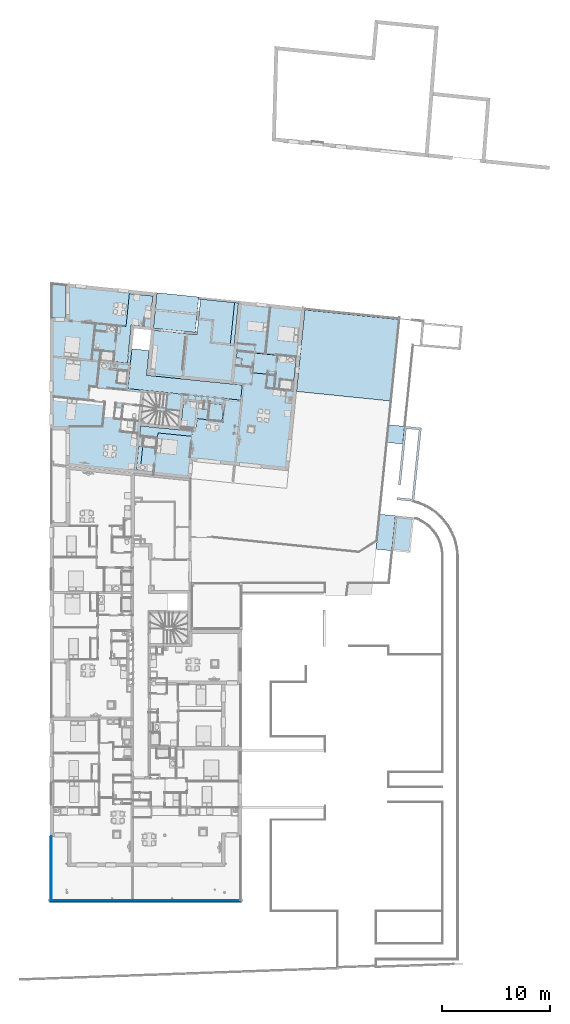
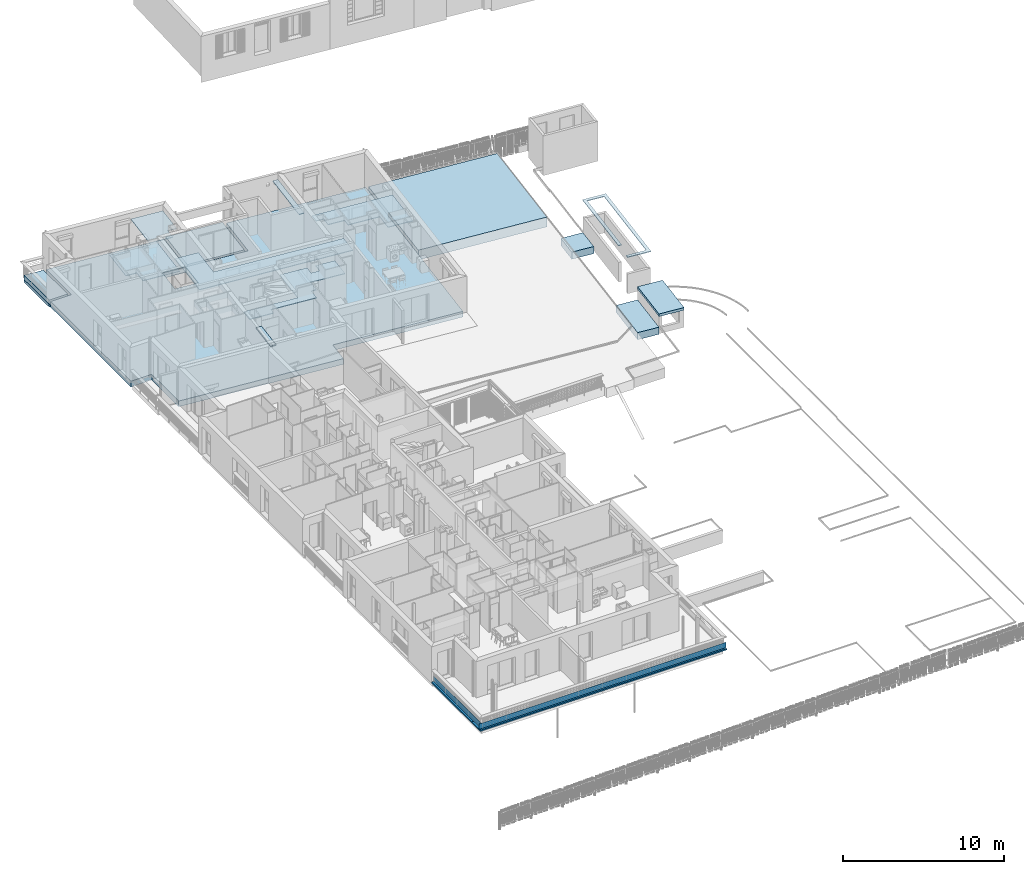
# One storey, part 19 of 171: 15 slabs, 5 walls.
"""IFC2X3 building model written with IfcOpenShell, lengths in millimetres."""

from ifc_helpers import new_model, entity, si_unit, converted_unit, derived_unit, money_unit, direction, frame, origin_with_axes, place, context, subcontext, project, spatial, polyline, outline, extrude, material, layer, layer_set, layer_usage, type_object, element, save


model = new_model("IFC2X3")

# Units and contexts
model_context = context("Model", 3, precision=0.01, world=origin_with_axes(), true_north=direction((0.0, 1.0)))
body_context = subcontext(model_context, "Body", "Model", "MODEL_VIEW")
ifc_project = project(units=[si_unit("LENGTHUNIT", "METRE", prefix="MILLI"), si_unit("AREAUNIT", "SQUARE_METRE"), si_unit("VOLUMEUNIT", "CUBIC_METRE"), converted_unit("PLANEANGLEUNIT", "DEGREE", entity("IfcPlaneAngleMeasure", 0.0174532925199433), si_unit("PLANEANGLEUNIT", "RADIAN"), dimensions=[0, 0, 0, 0, 0, 0, 0]), money_unit("USD"), converted_unit("TIMEUNIT", "Year", entity("IfcTimeMeasure", 31557600.0), si_unit("TIMEUNIT", "SECOND"), dimensions=[0, 0, 1, 0, 0, 0, 0]), si_unit("MASSUNIT", "GRAM", prefix="KILO"), si_unit("THERMODYNAMICTEMPERATUREUNIT", "DEGREE_CELSIUS"), si_unit("LUMINOUSINTENSITYUNIT", "LUMEN"), si_unit("ENERGYUNIT", "JOULE", prefix="MEGA"), derived_unit("THERMALCONDUCTANCEUNIT", [(si_unit("POWERUNIT", "WATT"), 1), (si_unit("LENGTHUNIT", "METRE"), -1), (si_unit("THERMODYNAMICTEMPERATUREUNIT", "KELVIN"), -1)]), derived_unit("SPECIFICHEATCAPACITYUNIT", [(si_unit("ENERGYUNIT", "JOULE"), 1), (si_unit("MASSUNIT", "GRAM", prefix="KILO"), -1), (si_unit("THERMODYNAMICTEMPERATUREUNIT", "KELVIN"), -1)]), derived_unit("MASSDENSITYUNIT", [(si_unit("MASSUNIT", "GRAM", prefix="KILO"), 1), (si_unit("VOLUMEUNIT", "CUBIC_METRE"), -1)])], contexts=[model_context])

# Site, building, storey
site_placement = place(None, origin_with_axes())
site = spatial("IfcSite", under=ifc_project, at=site_placement, Name="Site", CompositionType="ELEMENT")
building_placement = place(site_placement, origin_with_axes())
building = spatial("IfcBuilding", under=site, at=building_placement, Name="Bâtiment", CompositionType="ELEMENT")
storey_placement = place(building_placement, frame((0.0, 0.0, 3000.0), z_axis=(0.0, 0.0, 1.0), x_axis=(1.0, 0.0, 0.0)))
storey = spatial("IfcBuildingStorey", under=building, at=storey_placement, Name="rdc", CompositionType="ELEMENT", Elevation=3000.0)

# Slabs
ifc_material_1 = material(Name="100 % (2) 313493396")
ifc_layer_1 = layer(ifc_material_1, 50.0, ventilated="UNKNOWN")
ifc_layer_set_1 = layer_set([ifc_layer_1], Name="dalle 5")
ifc_layer_usage_1 = layer_usage(ifc_layer_set_1, "AXIS3", "NEGATIVE", 50.0)
slab_type_1 = type_object("IfcSlabType", Name="dalle 5 50", PredefinedType="FLOOR")
slab_1_placement = place(storey_placement, frame((2220622.443383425, -610099.5476057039, 2300.0), z_axis=(0.0, 0.0, 1.0), x_axis=(1.0, 0.0, 0.0)))
element("IfcSlab", 1, at=slab_1_placement, inside=storey, type_object=slab_type_1, material=ifc_layer_usage_1, Name="Dalle-032", PredefinedType="FLOOR", context=body_context, shape_type="SweptSolid", body=[
    extrude(outline(polyline([(0.0, 0.0), (742.6102621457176, -75.52064950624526), (649.2805936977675, -994.8044757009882), (1496.229301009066, -1085.78361941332), (1912.776701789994, -1123.16854735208), (3158.786197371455, -1249.792941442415), (3517.222859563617, 2277.296084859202), (4631.148058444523, 2164.094571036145), (4708.020585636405, 2920.536477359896), (5305.282290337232, 2859.840433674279), (5517.565065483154, 4948.743635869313), (3342.381087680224, 5169.794409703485), (3035.084629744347, 2145.93575753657), (246.6139097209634, 2429.31116422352), (225.826361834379, 2224.678927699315), (0.0, 0.0)])), frame((0.0, 0.0, -50.0), z_axis=(0.0, 0.0, 1.0), x_axis=(1.0, 0.0, 0.0)), (0.0, 0.0, 1.0), 50.0),
])
ifc_layer_usage_2 = layer_usage(ifc_layer_set_1, "AXIS3", "NEGATIVE", 50.0)
slab_2_placement = place(storey_placement, frame((2233841.790202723, -610866.3806351, 2300.0), z_axis=(0.0, 0.0, 1.0), x_axis=(1.0, 0.0, 0.0)))
element("IfcSlab", 2, at=slab_2_placement, inside=storey, type_object=slab_type_1, material=ifc_layer_usage_2, Name="Dalle-032", PredefinedType="FLOOR", context=body_context, shape_type="SweptSolid", body=[
    extrude(outline(polyline([(0.0, 0.0), (517.3031509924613, -53.25313099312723), (449.6731005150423, -721.8584013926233), (1564.65208728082, -835.0480610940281), (1510.415743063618, -1368.74511607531), (1933.618146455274, -1411.423174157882), (3660.265291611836, -1585.547769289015), (3535.28475698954, -2824.874272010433), (5226.610085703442, -2996.753430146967), (5444.325798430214, -831.8669905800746), (5537.578354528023, 63.23654587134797), (5038.692952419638, 114.2591753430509), (63.59986569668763, 619.5239223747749), (0.0, 0.0)])), frame((0.0, 0.0, -50.0), z_axis=(0.0, 0.0, 1.0), x_axis=(1.0, 0.0, 0.0)), (0.0, 0.0, 1.0), 50.0),
])
ifc_layer_usage_3 = layer_usage(ifc_layer_set_1, "AXIS3", "NEGATIVE", 50.0)
slab_3_placement = place(storey_placement, frame((2224197.826574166, -610019.3901133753, 2300.0), z_axis=(0.0, 0.0, 1.0), x_axis=(1.0, 0.0, 0.0)))
element("IfcSlab", 3, at=slab_3_placement, inside=storey, type_object=slab_type_1, material=ifc_layer_usage_3, Name="Dalle-033", PredefinedType="FLOOR", context=body_context, shape_type="SweptSolid", body=[
    extrude(outline(polyline([(0.0, 0.0), (-374.275552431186, -3682.946135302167), (10045.32255771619, -4741.826831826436), (10186.49317989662, -3348.962579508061), (4496.695373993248, -2770.743069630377), (1359.07044702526, -2451.885006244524), (1591.801471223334, -161.765040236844), (0.0, 0.0)])), frame((0.0, 0.0, -50.0), z_axis=(0.0, 0.0, 1.0), x_axis=(1.0, 0.0, 0.0)), (0.0, 0.0, 1.0), 50.0),
])
ifc_layer_usage_4 = layer_usage(ifc_layer_set_1, "AXIS3", "NEGATIVE", 50.0)
slab_4_placement = place(storey_placement, frame((2224917.607073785, -618033.9690830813, 2300.0), z_axis=(0.0, 0.0, 1.0), x_axis=(1.0, 0.0, 0.0)))
element("IfcSlab", 4, at=slab_4_placement, inside=storey, type_object=slab_type_1, material=ifc_layer_usage_4, Name="Dalle-032", PredefinedType="FLOOR", context=body_context, shape_type="SweptSolid", body=[
    extrude(outline(polyline([(0.0, 0.0), (1644.816543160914, -166.2465628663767), (1686.132932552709, 240.6141645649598), (4793.25902949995, -70.0833301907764), (4842.109984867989, 410.6194754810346), (4874.075513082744, 725.1917521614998), (4963.702104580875, 716.0836481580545), (5033.34338786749, 709.0064145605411), (5212.421132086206, 690.8078337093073), (5301.426470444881, 1566.638601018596), (6257.511734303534, 1466.334394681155), (7634.405333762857, 1327.118325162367), (7788.332629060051, 2845.846838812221), (6481.582862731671, 2978.491601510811), (6419.419102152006, 2366.9433909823), (5837.788732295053, 2426.066113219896), (5900.663363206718, 3039.210086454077), (4046.923732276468, 3225.137564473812), (3772.844918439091, 519.2824235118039), (90.76708444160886, 893.4697406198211), (0.0, 0.0)])), frame((0.0, 0.0, -50.0), z_axis=(0.0, 0.0, 1.0), x_axis=(1.0, 0.0, 0.0)), (0.0, 0.0, 1.0), 50.0),
])
ifc_layer_usage_5 = layer_usage(ifc_layer_set_1, "AXIS3", "NEGATIVE", 50.0)
slab_5_placement = place(storey_placement, frame((2224592.375301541, -621216.7819724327, 2300.0), z_axis=(0.0, 0.0, 1.0), x_axis=(1.0, 0.0, 0.0)))
element("IfcSlab", 5, at=slab_5_placement, inside=storey, type_object=slab_type_1, material=ifc_layer_usage_5, Name="Dalle-032", PredefinedType="FLOOR", context=body_context, shape_type="SweptSolid", body=[
    extrude(outline(polyline([(0.0, 0.0), (383.2232783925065, -38.75206167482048), (604.9985125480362, 2155.443770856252), (224.7733201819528, 2193.892862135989), (0.0, 0.0)])), frame((0.0, 0.0, -50.0), z_axis=(0.0, 0.0, 1.0), x_axis=(1.0, 0.0, 0.0)), (0.0, 0.0, 1.0), 50.0),
])
ifc_layer_usage_6 = layer_usage(ifc_layer_set_1, "AXIS3", "NEGATIVE", 50.0)
slab_6_placement = place(storey_placement, frame((2233677.879347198, -605756.008124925, 2300.0), z_axis=(0.0, 0.0, 1.0), x_axis=(1.0, 0.0, 0.0)))
element("IfcSlab", 6, at=slab_6_placement, inside=storey, type_object=slab_type_1, material=ifc_layer_usage_6, Name="Dalle-032", PredefinedType="FLOOR", context=body_context, shape_type="SweptSolid", body=[
    extrude(outline(polyline([(0.0, 0.0), (-402.0339077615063, -3956.094120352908), (-44.40625224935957, -3992.342939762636), (356.5810905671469, -36.23717861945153), (0.0, 0.0)])), frame((0.0, 0.0, -50.0), z_axis=(0.0, 0.0, 1.0), x_axis=(1.0, 0.0, 0.0)), (0.0, 0.0, 1.0), 50.0),
])
ifc_layer_usage_7 = layer_usage(ifc_layer_set_1, "AXIS3", "NEGATIVE", 50.0)
slab_7_placement = place(storey_placement, frame((2249542.796194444, -617400.1756221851, 2300.0), z_axis=(0.0, 0.0, 1.0), x_axis=(1.0, 0.0, 0.0)))
element("IfcSlab", 7, at=slab_7_placement, inside=storey, type_object=slab_type_1, material=ifc_layer_usage_7, Name="Dalle-032", PredefinedType="FLOOR", context=body_context, shape_type="SweptSolid", body=[
    extrude(outline(polyline([(0.0, 0.0), (1154.056091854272, -117.2797376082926), (506.862688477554, -6485.792363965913), (-866.0661104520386, -6346.269917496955), (-888.3088193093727, -6565.142624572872), (703.4926866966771, -6726.907779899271), (1395.17150778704, 79.35026061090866), (-196.6299982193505, 241.1154159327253), (-748.7863728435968, -5192.213825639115), (-529.9136657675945, -5214.456534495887), (0.0, 0.0)])), frame((0.0, 0.0, -50.0), z_axis=(0.0, 0.0, 1.0), x_axis=(1.0, 0.0, 0.0)), (0.0, 0.0, 1.0), 50.0),
])
ifc_material_2 = material(Name="Brique 1 268964100")
ifc_layer_2 = layer(ifc_material_2, 50.0, ventilated="UNKNOWN")
ifc_material_3 = material(Name="Parpaing 288701002")
ifc_layer_3 = layer(ifc_material_3, 230.0, ventilated="UNKNOWN")
ifc_material_4 = material(Name="Isolation toiture terrasse 288701002")
ifc_layer_4 = layer(ifc_material_4, 150.0, ventilated="UNKNOWN")
ifc_layer_set_2 = layer_set([ifc_layer_2, ifc_layer_3, ifc_layer_4], Name="dalle 23+ chape5+ isolant sousface15")
ifc_layer_usage_8 = layer_usage(ifc_layer_set_2, "AXIS3", "NEGATIVE", 430.0000000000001)
slab_type_2 = type_object("IfcSlabType", Name="dalle 23+ chape5+ isolant sousface15 430", PredefinedType="FLOOR")
slab_8_placement = place(storey_placement, frame((2216814.23334483, -607347.3879007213, 0.0), z_axis=(0.0, 0.0, 1.0), x_axis=(1.0, 0.0, 0.0)))
element("IfcSlab", 8, at=slab_8_placement, inside=storey, type_object=slab_type_2, material=ifc_layer_usage_8, Name="Dalle-030", PredefinedType="FLOOR", context=body_context, shape_type="SweptSolid", body=[
    extrude(outline(polyline([(0.0, 0.0), (3.410605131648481e-10, -9980.117907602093), (1500.000000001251, -9980.117907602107), (1500.000000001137, -13331.77322326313), (12680.38566887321, -14467.96817345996), (12845.02077082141, -12847.92581820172), (16762.83368136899, -13246.06943824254), (20566.26060295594, -13632.5347276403), (21677.98372468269, -13745.52478754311), (23171.43728008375, 950.3571156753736), (13722.19506849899, 1910.626425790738), (13388.51564292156, -1372.845908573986), (9167.49084024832, -943.5029644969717), (8975.394711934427, -2833.767315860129), (7383.593205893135, -2672.002160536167), (7575.689334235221, -781.7378091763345), (9167.49084024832, -943.5029644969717), (9501.131791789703, 2339.587545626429), (1500.000000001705, 3152.694156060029), (1500.000000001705, -1.35003119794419e-10), (0.0, 0.0)])), frame((0.0, 0.0, -430.0000000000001), z_axis=(0.0, 0.0, 1.0), x_axis=(1.0, 0.0, 0.0)), (0.0, 0.0, 1.0), 430.0000000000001),
])
ifc_material_5 = material(Name="Pierre 285292438")
ifc_layer_5 = layer(ifc_material_5, 500.0, ventilated="UNKNOWN")
ifc_layer_6 = layer(ifc_material_3, 240.0, ventilated="UNKNOWN")
ifc_layer_set_3 = layer_set([ifc_layer_5, ifc_layer_6], Name="dalle 24 + gazon 50")
ifc_layer_usage_9 = layer_usage(ifc_layer_set_3, "AXIS3", "NEGATIVE", 740.0)
slab_type_3 = type_object("IfcSlabType", Name="dalle 24 + gazon 50 740", PredefinedType="FLOOR")
slab_9_placement = place(storey_placement, frame((2240162.726229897, -606435.1268838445, 0.0), z_axis=(0.0, 0.0, 1.0), x_axis=(1.0, 0.0, 0.0)))
element("IfcSlab", 9, at=slab_9_placement, inside=storey, type_object=slab_type_3, material=ifc_layer_usage_9, Name="Dalle-032", PredefinedType="FLOOR", context=body_context, shape_type="SweptSolid", body=[
    extrude(outline(polyline([(0.0, 0.0), (-764.8616698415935, -7526.391920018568), (7973.019220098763, -8414.369746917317), (8737.88081920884, -887.9780189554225), (0.0, 0.0)])), frame((0.0, 0.0, -740.0), z_axis=(0.0, 0.0, 1.0), x_axis=(1.0, 0.0, 0.0)), (0.0, 0.0, 1.0), 740.0),
])
ifc_material_6 = material(Name="100 % 288701002")
ifc_layer_7 = layer(ifc_material_6, 40.0, ventilated="UNKNOWN")
ifc_material_7 = material(Name="AS_EMPTY 288701002")
ifc_layer_8 = layer(ifc_material_7, 100.0, ventilated="UNKNOWN")
ifc_layer_9 = layer(ifc_material_3, 200.0, ventilated="UNKNOWN")
ifc_layer_set_4 = layer_set([ifc_layer_7, ifc_layer_8, ifc_layer_9], Name="dalle 20+plots")
ifc_layer_usage_10 = layer_usage(ifc_layer_set_4, "AXIS3", "NEGATIVE", 340.0)
slab_type_4 = type_object("IfcSlabType", Name="dalle 20+plots 340", PredefinedType="FLOOR")
slab_10_placement = place(storey_placement, frame((2216814.233344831, -604042.2578209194, -200.0000000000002), z_axis=(0.0, 0.0, 1.0), x_axis=(1.0, 0.0, 0.0)))
element("IfcSlab", 10, at=slab_10_placement, inside=storey, type_object=slab_type_4, material=ifc_layer_usage_10, Name="Dalle-050", PredefinedType="FLOOR", context=body_context, shape_type="SweptSolid", body=[
    extrude(outline(polyline([(0.0, 0.0), (-4.571859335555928e-05, -3125.130079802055), (1320.000000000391, -3125.130079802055), (1320.000000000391, -134.1436303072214), (0.0, 0.0)])), frame((0.0, 0.0, -340.0), z_axis=(0.0, 0.0, 1.0), x_axis=(1.0, 0.0, 0.0)), (0.0, 0.0, 1.0), 340.0),
])
ifc_layer_usage_11 = layer_usage(ifc_layer_set_4, "AXIS3", "NEGATIVE", 340.0)
slab_11_placement = place(storey_placement, frame((2218134.233344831, -604176.4014512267, 0.0), z_axis=(0.0, 0.0, 1.0), x_axis=(1.0, 0.0, 0.0)))
element("IfcSlab", 11, at=slab_11_placement, inside=storey, type_object=slab_type_4, material=ifc_layer_usage_11, Name="Dalle-050", PredefinedType="FLOOR", context=body_context, shape_type="SweptSolid", body=[
    extrude(outline(polyline([(0.0, 0.0), (-1319.999996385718, 134.1436303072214), (-1319.999997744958, -2990.986449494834), (4.547473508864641e-10, -2990.986449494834), (0.0, 0.0)])), frame((0.0, 0.0, -340.0), z_axis=(0.0, 0.0, 1.0), x_axis=(1.0, 0.0, 0.0)), (0.0, 0.0, 1.0), 340.0),
])
ifc_layer_usage_12 = layer_usage(ifc_layer_set_4, "AXIS3", "NEGATIVE", 340.0)
slab_12_placement = place(storey_placement, frame((2226512.641392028, -604846.9212789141, 0.0), z_axis=(0.0, 0.0, 1.0), x_axis=(1.0, 0.0, 0.0)))
element("IfcSlab", 12, at=slab_12_placement, inside=storey, type_object=slab_type_4, material=ifc_layer_usage_12, Name="Dalle-050", PredefinedType="FLOOR", context=body_context, shape_type="SweptSolid", body=[
    extrude(outline(polyline([(0.0, 0.0), (-274.8763000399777, -2704.833632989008), (-333.641102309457, -3283.090500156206), (3529.230225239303, -3676.019365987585), (3862.907931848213, -392.5639466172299), (3054.268823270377, -310.3868431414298), (0.0, 0.0)])), frame((0.0, 0.0, -340.0), z_axis=(0.0, 0.0, 1.0), x_axis=(1.0, 0.0, 0.0)), (0.0, 0.0, 1.0), 340.0),
])
ifc_layer_10 = layer(ifc_material_5, 300.0, ventilated="UNKNOWN")
ifc_layer_11 = layer(ifc_material_3, 240.0, ventilated="UNKNOWN")
ifc_layer_set_5 = layer_set([ifc_layer_10, ifc_layer_11], Name="dalle 24 + gazon 30 0025571715")
ifc_layer_usage_13 = layer_usage(ifc_layer_set_5, "AXIS3", "NEGATIVE", 540.0)
slab_type_5 = type_object("IfcSlabType", Name="dalle 24 + gazon 30 0025571715 540", PredefinedType="FLOOR")
slab_13_placement = place(storey_placement, frame((2247871.105192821, -617029.4409800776, -199.9999999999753), z_axis=(0.0, 0.0, 1.0), x_axis=(1.0, 0.0, 0.0)))
element("IfcSlab", 13, at=slab_13_placement, inside=storey, type_object=slab_type_5, material=ifc_layer_usage_13, Name="Dalle-031", PredefinedType="FLOOR", context=body_context, shape_type="SweptSolid", body=[
    extrude(outline(polyline([(0.0, 0.0), (-166.7070473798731, -1640.43082284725), (1326.068908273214, -1791.801848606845), (1492.683906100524, -151.5131744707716), (0.0, 0.0)])), frame((0.0, 0.0, -540.0), z_axis=(0.0, 0.0, 1.0), x_axis=(1.0, 0.0, 0.0)), (0.0, 0.0, 1.0), 540.0),
])
ifc_layer_usage_14 = layer_usage(ifc_layer_set_5, "AXIS3", "NEGATIVE", 540.0)
slab_14_placement = place(storey_placement, frame((2248194.197924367, -628673.1309445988, 0.0), z_axis=(0.0, 0.0, 1.0), x_axis=(1.0, 0.0, 0.0)))
element("IfcSlab", 14, at=slab_14_placement, inside=storey, type_object=slab_type_5, material=ifc_layer_usage_14, Name="Dalle-031", PredefinedType="FLOOR", context=body_context, shape_type="SweptSolid", body=[
    extrude(outline(polyline([(0.0, 0.0), (329.7333669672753, 3232.836843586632), (-1119.761515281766, 3380.140228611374), (-1448.307409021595, 147.1827185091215), (0.0, 0.0)])), frame((0.0, 0.0, -540.0), z_axis=(0.0, 0.0, 1.0), x_axis=(1.0, 0.0, 0.0)), (0.0, 0.0, 1.0), 540.0),
])
ifc_layer_12 = layer(ifc_material_3, 200.0, ventilated="UNKNOWN")
ifc_layer_set_6 = layer_set([ifc_layer_12], Name="dalle 20")
ifc_layer_usage_15 = layer_usage(ifc_layer_set_6, "AXIS3", "NEGATIVE", 200.0)
slab_type_6 = type_object("IfcSlabType", Name="dalle 20 200", PredefinedType="FLOOR")
slab_15_placement = place(storey_placement, frame((2248194.197924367, -628673.1309445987, 1000.0), z_axis=(0.0, 0.0, 1.0), x_axis=(1.0, 0.0, 0.0)))
element("IfcSlab", 15, at=slab_15_placement, inside=storey, type_object=slab_type_6, material=ifc_layer_usage_15, Name="Dalle-036", PredefinedType="FLOOR", context=body_context, shape_type="SweptSolid", body=[
    extrude(outline(polyline([(0.0, 0.0), (1700.790184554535, -172.8410152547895), (2029.336080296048, 3060.116514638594), (328.5459104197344, 3232.957517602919), (0.0, 0.0)])), frame((0.0, 0.0, -200.0), z_axis=(0.0, 0.0, 1.0), x_axis=(1.0, 0.0, 0.0)), (0.0, 0.0, 1.0), 200.0),
])

# Walls
ifc_material_8 = material(Name="Parpaing 314940890")
ifc_layer_13 = layer(ifc_material_8, 180.0, ventilated="UNKNOWN")
ifc_layer_set_7 = layer_set([ifc_layer_13], Name="Beton  18 0170347028")
ifc_layer_usage_16 = layer_usage(ifc_layer_set_7, "AXIS2", "NEGATIVE", 180.0)
wall_type_1 = type_object("IfcWallType", Name="Beton  18 0170347028 180", PredefinedType="NOTDEFINED")
wall_1_placement = place(storey_placement, frame((2216634.233343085, -660048.1031596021, 0.0), z_axis=(0.0, 0.0, 1.0), x_axis=(0.0, -1.0, 0.0)))
element("IfcWallStandardCase", 16, at=wall_1_placement, inside=storey, type_object=wall_type_1, material=ifc_layer_usage_16, Name="Mur-133", context=body_context, shape_type="SweptSolid", body=[
    extrude(outline(polyline([(0.0, 0.0), (1050.219917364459, 0.0), (870.2156450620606, 179.99999999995), (-7.37685468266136e-08, 179.99999999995), (0.0, 0.0)])), origin_with_axes(), (0.0, 0.0, 1.0), 100.0),
])
ifc_layer_usage_17 = layer_usage(ifc_layer_set_7, "AXIS2", "NEGATIVE", 180.0)
wall_2_placement = place(storey_placement, frame((2216634.233343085, -661098.3230769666, 0.0), z_axis=(0.0, 0.0, 1.0), x_axis=(0.9999999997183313, 2.373473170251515e-05, 0.0)))
element("IfcWallStandardCase", 17, at=wall_2_placement, inside=storey, type_object=wall_type_1, material=ifc_layer_usage_17, Name="Mur-134", context=body_context, shape_type="SweptSolid", body=[
    extrude(outline(polyline([(0.0, 0.0), (17722.40800241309, 0.0), (17542.41227466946, 179.9999999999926), (180.0042723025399, 179.9999999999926), (0.0, 0.0)])), origin_with_axes(), (0.0, 0.0, 1.0), 100.0),
])
ifc_layer_usage_18 = layer_usage(ifc_layer_set_7, "AXIS2", "NEGATIVE", 180.0)
wall_3_placement = place(storey_placement, frame((2216634.233338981, -655041.4677782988, 0.0), z_axis=(0.0, 0.0, 1.0), x_axis=(8.195721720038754e-10, -1.0, 0.0)))
element("IfcWallStandardCase", 18, at=wall_3_placement, inside=storey, type_object=wall_type_1, material=ifc_layer_usage_18, Name="Mur-133", context=body_context, shape_type="SweptSolid", body=[
    extrude(outline(polyline([(0.0, 0.0), (5006.635381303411, 0.0), (5006.63538137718, 179.99999999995), (1.47522882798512e-07, 179.99999999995), (0.0, 0.0)])), origin_with_axes(), (0.0, 0.0, 1.0), 100.0),
])
ifc_material_9 = material(Name="MANQUANT")
ifc_layer_14 = layer(ifc_material_9, 20.0, ventilated="UNKNOWN")
ifc_layer_set_8 = layer_set([ifc_layer_14], Name="MANQUANT 20")
ifc_layer_usage_19 = layer_usage(ifc_layer_set_8, "AXIS2", "NEGATIVE", 20.0)
wall_type_2 = type_object("IfcWallType", Name="MANQUANT 20", PredefinedType="NOTDEFINED")
wall_4_placement = place(storey_placement, frame((2216795.085210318, -660953.4661150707, 100.0000000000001), z_axis=(0.0, 0.0, 1.0), x_axis=(1.351454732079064e-06, 0.9999999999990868, 0.0)))
element("IfcWallStandardCase", 19, at=wall_4_placement, inside=storey, type_object=wall_type_2, material=ifc_layer_usage_19, Name="Mur-152", context=body_context, shape_type="SweptSolid", body=[
    extrude(outline(polyline([(0.0, 0.0), (5911.998336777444, 0.0), (5911.998309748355, 20.0000000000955), (0.0, 20.0000000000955), (0.0, 0.0)])), origin_with_axes(), (0.0, 0.0, 1.0), 400.0),
])
ifc_layer_usage_20 = layer_usage(ifc_layer_set_8, "AXIS2", "NEGATIVE", 20.0)
wall_5_placement = place(storey_placement, frame((2216634.233343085, -660973.4658976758, 100.0000000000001), z_axis=(0.0, 0.0, 1.0), x_axis=(0.9999999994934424, 3.18294721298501e-05, 0.0)))
element("IfcWallStandardCase", 20, at=wall_5_placement, inside=storey, type_object=wall_type_2, material=ifc_layer_usage_20, Name="Mur-152", context=body_context, shape_type="SweptSolid", body=[
    extrude(outline(polyline([(0.0, 0.0), (17722.40800643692, 0.0), (17722.40800643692, 19.99999999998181), (0.0, 19.99999999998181), (0.0, 0.0)])), origin_with_axes(), (0.0, 0.0, 1.0), 400.0),
])

save(model, "model.ifc")
